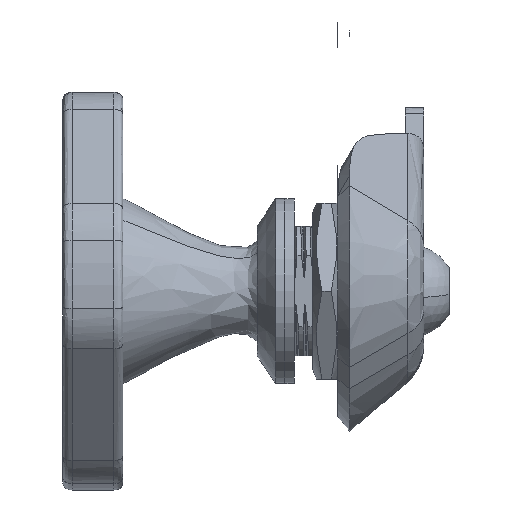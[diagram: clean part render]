
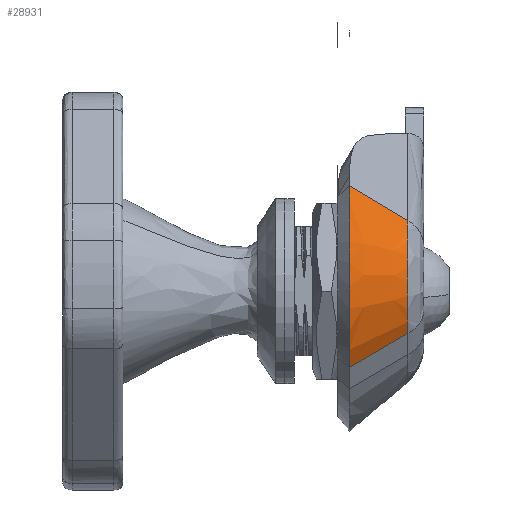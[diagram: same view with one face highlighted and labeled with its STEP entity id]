
A CAD part, left-side view. The second image highlights one B-rep face of the part: STEP entity #28931.
In plain terms, the highlighted free-form (B-spline) face has degree [3, 3] with [10, 4] control points.
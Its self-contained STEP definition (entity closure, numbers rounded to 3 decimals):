
#1114 = CARTESIAN_POINT ( 'NONE',  ( -12., 6., 15.396 ) ) ;
#3437 = EDGE_CURVE ( 'NONE', #64647, #37858, #63512, .T. ) ;
#4712 = CARTESIAN_POINT ( 'NONE',  ( -11.639, 0.228, 10.58 ) ) ;
#5509 = CARTESIAN_POINT ( 'NONE',  ( -21.119, 0.753, 6.903 ) ) ;
#11868 = CARTESIAN_POINT ( 'NONE',  ( -22.49, 2.327, 7.574 ) ) ;
#12254 = VERTEX_POINT ( 'NONE', #44599 ) ;
#13500 = CARTESIAN_POINT ( 'NONE',  ( -25.396, 6., 1. ) ) ;
#16271 = CARTESIAN_POINT ( 'NONE',  ( -11.869, 3.901, 13.645 ) ) ;
#17051 = CARTESIAN_POINT ( 'NONE',  ( -24.775, 4.951, 8.693 ) ) ;
#17445 = CARTESIAN_POINT ( 'NONE',  ( -20.142, -0.297, 1.394 ) ) ;
#18958 = CARTESIAN_POINT ( 'NONE',  ( -18.721, -2., 1.5 ) ) ;
#21162 = CARTESIAN_POINT ( 'NONE',  ( -23.645, 3.901, 1.131 ) ) ;
#22963 = DIRECTION ( 'NONE',  ( -0.048, 0.767, 0.64 ) ) ;
#23017 = CARTESIAN_POINT ( 'NONE',  ( -18.983, 3.901, 13.429 ) ) ;
#23413 = FACE_OUTER_BOUND ( 'NONE', #70913, .T. ) ;
#23802 = CARTESIAN_POINT ( 'NONE',  ( -20.662, 0.228, 6.68 ) ) ;
#25047 = ORIENTED_EDGE ( 'NONE', *, *, #49521, .T. ) ;
#25373 = ORIENTED_EDGE ( 'NONE', *, *, #70240, .T. ) ;
#27134 = CARTESIAN_POINT ( 'NONE',  ( -23.861, 3.901, 8.245 ) ) ;
#28596 = CARTESIAN_POINT ( 'NONE',  ( -17.826, 1.802, 11.754 ) ) ;
#28895 = VECTOR ( 'NONE', #38407, 1000. ) ;
#28931 = ADVANCED_FACE ( 'NONE', ( #23413 ), #69915, .T. ) ;
#28984 = CARTESIAN_POINT ( 'NONE',  ( -11.77, 2.327, 12.331 ) ) ;
#29765 = CARTESIAN_POINT ( 'NONE',  ( -21.018, 0.753, 1.328 ) ) ;
#30510 = CARTESIAN_POINT ( 'NONE',  ( -11.5, -0.297, 1.5 ) ) ;
#30545 = CARTESIAN_POINT ( 'NONE',  ( -25.232, 5.475, 8.916 ) ) ;
#31342 = CARTESIAN_POINT ( 'NONE',  ( -25.396, 6., 1. ) ) ;
#31460 = VECTOR ( 'NONE', #22963, 1000. ) ;
#33009 = AXIS2_PLACEMENT_3D ( 'NONE', #30510, #54772, #71886 ) ;
#34935 = CARTESIAN_POINT ( 'NONE',  ( -22.033, 1.802, 7.351 ) ) ;
#34938 = CARTESIAN_POINT ( 'NONE',  ( -11.5, 6., 1.5 ) ) ;
#35469 = VERTEX_POINT ( 'NONE', #13500 ) ;
#35726 = CARTESIAN_POINT ( 'NONE',  ( -20.58, 0.228, 1.361 ) ) ;
#36117 = CARTESIAN_POINT ( 'NONE',  ( -22.331, 2.327, 1.23 ) ) ;
#36518 = CARTESIAN_POINT ( 'NONE',  ( -11.967, 5.475, 14.958 ) ) ;
#37184 = CIRCLE ( 'NONE', #76557, 13.905 ) ;
#37378 = ORIENTED_EDGE ( 'NONE', *, *, #67442, .F. ) ;
#37858 = VERTEX_POINT ( 'NONE', #54894 ) ;
#38407 = DIRECTION ( 'NONE',  ( -0.64, 0.767, -0.048 ) ) ;
#40922 = CARTESIAN_POINT ( 'NONE',  ( -23.207, 3.376, 1.164 ) ) ;
#41710 = CARTESIAN_POINT ( 'NONE',  ( -16.958, 0.228, 10.499 ) ) ;
#44599 = CARTESIAN_POINT ( 'NONE',  ( -12., 6., 15.396 ) ) ;
#47272 = CARTESIAN_POINT ( 'NONE',  ( -11.934, 4.951, 14.52 ) ) ;
#47662 = CARTESIAN_POINT ( 'NONE',  ( -16.669, -0.297, 10.08 ) ) ;
#48003 = LINE ( 'NONE', #53183, #31460 ) ;
#48056 = CARTESIAN_POINT ( 'NONE',  ( -17.248, 0.753, 10.917 ) ) ;
#48449 = CARTESIAN_POINT ( 'NONE',  ( -25.689, 6., 9.14 ) ) ;
#48848 = CARTESIAN_POINT ( 'NONE',  ( -20.14, 6., 15.103 ) ) ;
#49521 = EDGE_CURVE ( 'NONE', #12254, #35469, #37184, .T. ) ;
#49565 = LINE ( 'NONE', #18958, #28895 ) ;
#52840 = CARTESIAN_POINT ( 'NONE',  ( -18.115, 2.327, 12.173 ) ) ;
#53183 = CARTESIAN_POINT ( 'NONE',  ( -11.5, -2., 8.721 ) ) ;
#53238 = DIRECTION ( 'NONE',  ( 0., -1., 0. ) ) ;
#54018 = CARTESIAN_POINT ( 'NONE',  ( -11.738, 1.802, 11.894 ) ) ;
#54772 = DIRECTION ( 'NONE',  ( 0., -1., 0. ) ) ;
#54894 = CARTESIAN_POINT ( 'NONE',  ( -20.142, -0.297, 1.394 ) ) ;
#58797 = CARTESIAN_POINT ( 'NONE',  ( -11.672, 0.753, 11.018 ) ) ;
#59984 = DIRECTION ( 'NONE',  ( -0.036, 0., 0.999 ) ) ;
#60382 = CARTESIAN_POINT ( 'NONE',  ( -23.404, 3.376, 8.022 ) ) ;
#60776 = CARTESIAN_POINT ( 'NONE',  ( -19.851, 5.475, 14.685 ) ) ;
#61438 = ORIENTED_EDGE ( 'NONE', *, *, #3437, .F. ) ;
#63512 = CIRCLE ( 'NONE', #33009, 8.643 ) ;
#64647 = VERTEX_POINT ( 'NONE', #75439 ) ;
#65167 = CARTESIAN_POINT ( 'NONE',  ( -11.606, -0.297, 10.142 ) ) ;
#67442 = EDGE_CURVE ( 'NONE', #37858, #35469, #49565, .T. ) ;
#67936 = CARTESIAN_POINT ( 'NONE',  ( -24.958, 5.475, 1.033 ) ) ;
#69915 =( BOUNDED_SURFACE ( )  B_SPLINE_SURFACE ( 3, 3, ( 
 ( #65167, #47662, #71923, #17445 ),
 ( #4712, #41710, #23802, #35726 ),
 ( #58797, #48056, #5509, #29765 ),
 ( #54018, #28596, #34935, #75638 ),
 ( #28984, #52840, #11868, #36117 ),
 ( #77483, #77094, #60382, #40922 ),
 ( #16271, #23017, #27134, #21162 ),
 ( #47272, #71525, #17051, #72712 ),
 ( #36518, #60776, #30545, #67936 ),
 ( #1114, #48848, #48449, #31342 ) ),
 .UNSPECIFIED., .F., .F., .F. ) 
 B_SPLINE_SURFACE_WITH_KNOTS ( ( 4, 2, 2, 2, 4 ),
 ( 4, 4 ),
 ( 0., 0.25, 0.5, 0.75, 1. ),
 ( 0., 1. ),
 .UNSPECIFIED. ) 
 GEOMETRIC_REPRESENTATION_ITEM ( )  RATIONAL_B_SPLINE_SURFACE ( (
 ( 1., 0.805, 0.805, 1.),
 ( 1., 0.805, 0.805, 1.),
 ( 1., 0.805, 0.805, 1.),
 ( 1., 0.805, 0.805, 1.),
 ( 1., 0.805, 0.805, 1.),
 ( 1., 0.805, 0.805, 1.),
 ( 1., 0.805, 0.805, 1.),
 ( 1., 0.805, 0.805, 1.),
 ( 1., 0.805, 0.805, 1.),
 ( 1., 0.805, 0.805, 1.) ) ) 
 REPRESENTATION_ITEM ( '' )  SURFACE ( )  );
#70240 = EDGE_CURVE ( 'NONE', #64647, #12254, #48003, .T. ) ;
#70913 = EDGE_LOOP ( 'NONE', ( #61438, #25373, #25047, #37378 ) ) ;
#71525 = CARTESIAN_POINT ( 'NONE',  ( -19.562, 4.951, 14.266 ) ) ;
#71886 = DIRECTION ( 'NONE',  ( -0.012, 0., 1. ) ) ;
#71923 = CARTESIAN_POINT ( 'NONE',  ( -20.205, -0.297, 6.456 ) ) ;
#72712 = CARTESIAN_POINT ( 'NONE',  ( -24.52, 4.951, 1.066 ) ) ;
#75439 = CARTESIAN_POINT ( 'NONE',  ( -11.606, -0.297, 10.142 ) ) ;
#75638 = CARTESIAN_POINT ( 'NONE',  ( -21.894, 1.802, 1.262 ) ) ;
#76557 = AXIS2_PLACEMENT_3D ( 'NONE', #34938, #53238, #59984 ) ;
#77094 = CARTESIAN_POINT ( 'NONE',  ( -18.694, 3.376, 13.01 ) ) ;
#77483 = CARTESIAN_POINT ( 'NONE',  ( -11.836, 3.376, 13.207 ) ) ;
